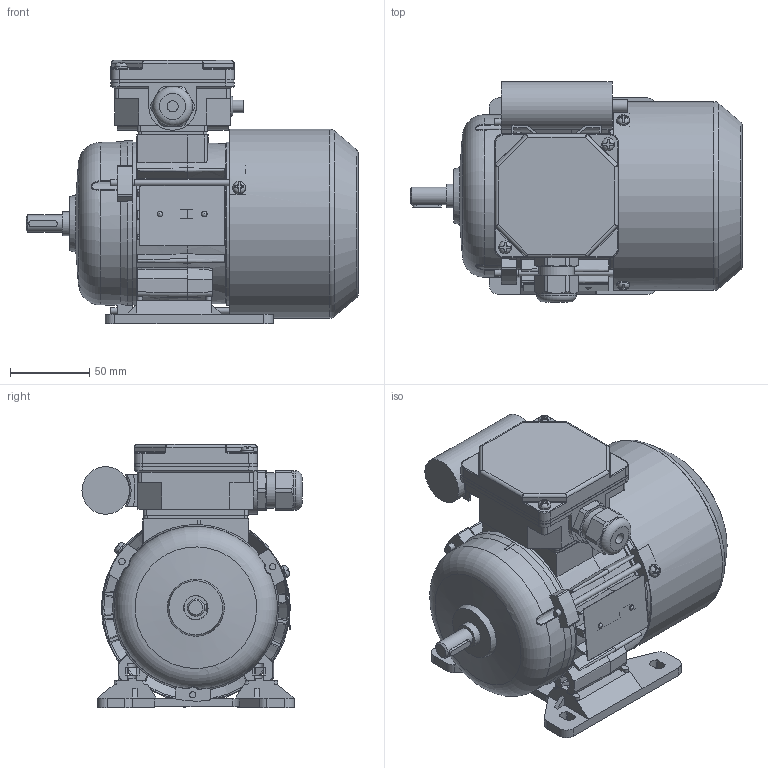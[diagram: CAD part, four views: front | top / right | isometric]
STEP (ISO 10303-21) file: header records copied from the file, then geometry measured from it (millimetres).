
FILE_DESCRIPTION(/* description */ ('Unknown'),/* implementation_level */ '2;1');
FILE_NAME(/* name */ '3SSIE63-2A',/* time_stamp */ '2024-06-27T11:02:48+02:00',/* author */ ('Unknown'),/* organization */ ('Unknown'),/* preprocessor_version */ 'ST-DEVELOPER v16.7',/* originating_system */ 'Solid Edge',/* authorisation */ 'Unknown');
FILE_SCHEMA (('AUTOMOTIVE_DESIGN {1 0 10303 214 3 1 1}'));
Length unit declared in the file: millimetre
Products named in the file (1): Czêœæ2
Bounding box: 209.49 x 138.82 x 166 mm (x, y, z)
Volume: 562453.4 mm3; surface area: 332236 mm2
Topology: 3 solids, 3 shells, 2046 faces, 5812 edges, 3785 vertices
Faces by surface type: plane 1052, cylinder 571, torus 149, cone 144, bspline 109, sphere 21
Full cylindrical faces by diameter (mm): 2.4 x2, 3 x1, 3.7 x7, 4 x8, 4.5 x5, 4.6 x1, 4.8 x2, 5 x2, 5.8 x4, 6.5 x1, 7 x4, 7.999 x1, 8 x6, 10.999 x1, 12.899 x1, 13.099 x1, 14.998 x2, 15.4 x2, 18.998 x2, 19.498 x1, 19.998 x1, 20.098 x1, 21.518 x4, 22.3 x1, 25 x1, 28 x2, 28.48 x4, 29.997 x1, 31 x2, 32 x1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
Entity records: 83522 total; most frequent: CARTESIAN_POINT 18105, ORIENTED_EDGE 10998, DIRECTION 10135, EDGE_CURVE 5499, AXIS2_PLACEMENT_3D 3726, VERTEX_POINT 3666, LINE 2683, VECTOR 2683
